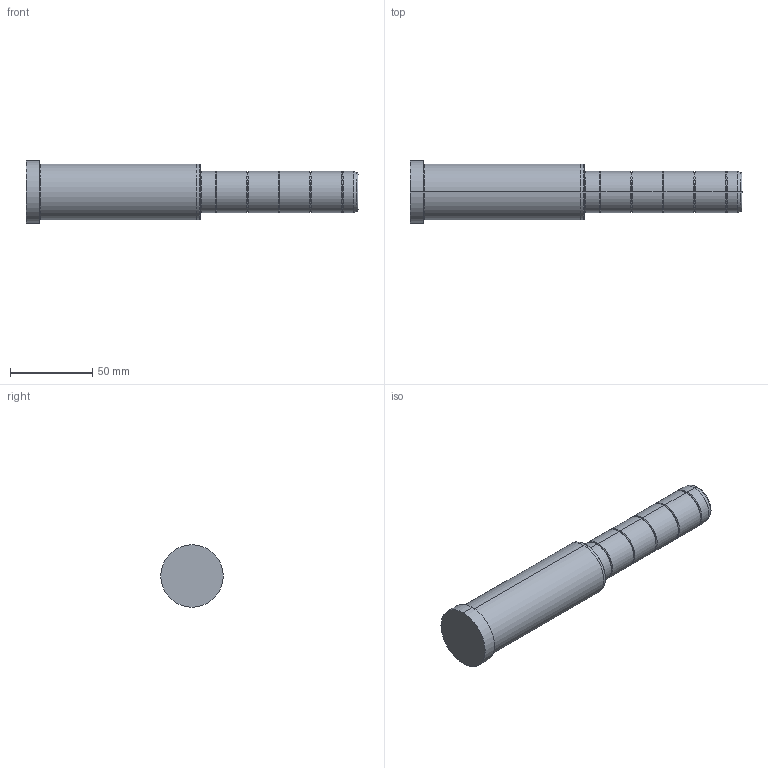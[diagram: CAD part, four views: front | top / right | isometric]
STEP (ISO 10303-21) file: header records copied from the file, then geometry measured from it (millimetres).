
FILE_DESCRIPTION( ( 'STEP AP203' ), '1' );
FILE_NAME( 'C:/Projects/D02 - 25x106x96.step', '2002-12-31T22:14:25', ( ' ' ), ( ' ' ), 'XStep 1.0', ' ', ' ' );
FILE_SCHEMA( ( 'CONFIG_CONTROL_DESIGN' ) );
Length unit declared in the file: metre
Products named in the file (1): 1
Bounding box: 202 x 38 x 38 mm (x, y, z)
Volume: 145013.1 mm3; surface area: 21321.6 mm2
Topology: 1 solids, 1 shells, 54 faces, 106 edges, 58 vertices
Faces by surface type: bspline 30, revolution 24
Entity records: 1721 total; most frequent: CARTESIAN_POINT 717, ORIENTED_EDGE 212, DIRECTION 166, EDGE_CURVE 106, AXIS2_PLACEMENT_3D 59, EDGE_LOOP 58, VERTEX_POINT 58, CIRCLE 58
